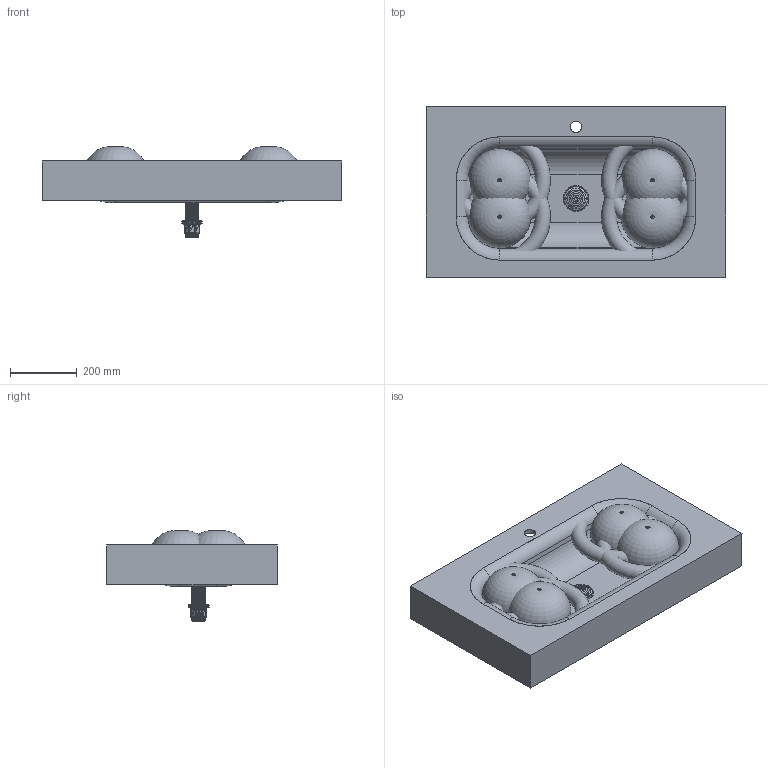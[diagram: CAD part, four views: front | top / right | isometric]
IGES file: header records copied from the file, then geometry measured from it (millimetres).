
Start section: Data from Parasolid IGES Translator 19.0.9, Copyright(c) 2006 Siemens PL M Software. All Rights Reserved.
Global section: file name: noorth-top-H 12 D 51,3 W 90_4797.igs; native system: By Siemens PLM Incorporated; preprocessor: XPlus GENERIC/IGES 19.0.9; author: Noname; organization: Noname; date: 20200603.112949; units: metre
Bounding box: 900 x 512 x 272.48 mm (x, y, z)
Volume: 22551952.8 mm3; surface area: 2658916.8 mm2
Topology: 2 solids, 2 shells, 11699 faces, 35056 edges, 34971 vertices
Faces by surface type: extrusion 11618, plane 28, cylinder 26, torus 18, cone 9
Full cylindrical faces by diameter (mm): 34.9 x1, 46 x1
